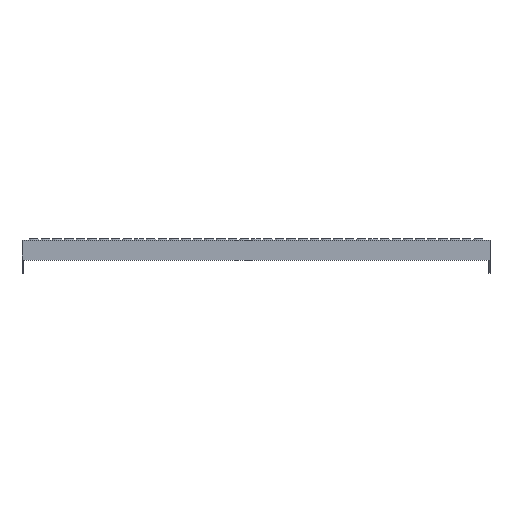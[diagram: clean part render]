
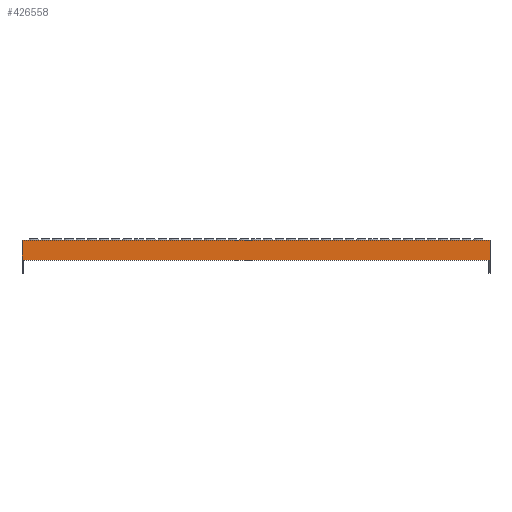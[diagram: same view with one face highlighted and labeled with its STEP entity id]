
A CAD part, front view. The second image highlights one B-rep face of the part: STEP entity #426558.
In plain terms, the highlighted planar face has unit normal (0, -1, 0).
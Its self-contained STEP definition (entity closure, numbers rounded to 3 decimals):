
#426558 = ADVANCED_FACE('',(#426559),#426573,.T.);
#426559 = FACE_BOUND('',#426560,.T.);
#426560 = EDGE_LOOP('',(#426561,#426584,#426600,#426616));
#426561 = ORIENTED_EDGE('',*,*,#426562,.T.);
#426562 = EDGE_CURVE('',#426563,#426565,#426567,.T.);
#426563 = VERTEX_POINT('',#426564);
#426564 = CARTESIAN_POINT('',(7000.,8745.,
    0.));
#426565 = VERTEX_POINT('',#426566);
#426566 = CARTESIAN_POINT('',(6000.,8745.,
    0.));
#426567 = SURFACE_CURVE('',#426568,(#426572),.PCURVE_S1.);
#426568 = LINE('',#426569,#426570);
#426569 = CARTESIAN_POINT('',(7000.,8745.,
    0.));
#426570 = VECTOR('',#426571,1.);
#426571 = DIRECTION('',(-1.,0.,0.));
#426572 = PCURVE('',#426573,#426578);
#426573 = PLANE('',#426574);
#426574 = AXIS2_PLACEMENT_3D('',#426575,#426576,#426577);
#426575 = CARTESIAN_POINT('',(6500.,8745.,-21.25
    ));
#426576 = DIRECTION('',(-0.,-1.,-0.));
#426577 = DIRECTION('',(0.,0.,-1.));
#426578 = DEFINITIONAL_REPRESENTATION('',(#426579),#426583);
#426579 = LINE('',#426580,#426581);
#426580 = CARTESIAN_POINT('',(-21.25,500.));
#426581 = VECTOR('',#426582,1.);
#426582 = DIRECTION('',(0.,-1.));
#426583 = ( GEOMETRIC_REPRESENTATION_CONTEXT(2) 
PARAMETRIC_REPRESENTATION_CONTEXT() REPRESENTATION_CONTEXT('2D SPACE',''
  ) );
#426584 = ORIENTED_EDGE('',*,*,#426585,.T.);
#426585 = EDGE_CURVE('',#426565,#426586,#426588,.T.);
#426586 = VERTEX_POINT('',#426587);
#426587 = CARTESIAN_POINT('',(6000.,8745.,-42.5)
  );
#426588 = SURFACE_CURVE('',#426589,(#426593),.PCURVE_S1.);
#426589 = LINE('',#426590,#426591);
#426590 = CARTESIAN_POINT('',(6000.,8745.,
    0.));
#426591 = VECTOR('',#426592,1.);
#426592 = DIRECTION('',(0.,0.,-1.));
#426593 = PCURVE('',#426573,#426594);
#426594 = DEFINITIONAL_REPRESENTATION('',(#426595),#426599);
#426595 = LINE('',#426596,#426597);
#426596 = CARTESIAN_POINT('',(-21.25,-500.));
#426597 = VECTOR('',#426598,1.);
#426598 = DIRECTION('',(1.,0.));
#426599 = ( GEOMETRIC_REPRESENTATION_CONTEXT(2) 
PARAMETRIC_REPRESENTATION_CONTEXT() REPRESENTATION_CONTEXT('2D SPACE',''
  ) );
#426600 = ORIENTED_EDGE('',*,*,#426601,.T.);
#426601 = EDGE_CURVE('',#426586,#426602,#426604,.T.);
#426602 = VERTEX_POINT('',#426603);
#426603 = CARTESIAN_POINT('',(7000.,8745.,-42.5)
  );
#426604 = SURFACE_CURVE('',#426605,(#426609),.PCURVE_S1.);
#426605 = LINE('',#426606,#426607);
#426606 = CARTESIAN_POINT('',(6000.,8745.,-42.5)
  );
#426607 = VECTOR('',#426608,1.);
#426608 = DIRECTION('',(1.,0.,0.));
#426609 = PCURVE('',#426573,#426610);
#426610 = DEFINITIONAL_REPRESENTATION('',(#426611),#426615);
#426611 = LINE('',#426612,#426613);
#426612 = CARTESIAN_POINT('',(21.25,-500.));
#426613 = VECTOR('',#426614,1.);
#426614 = DIRECTION('',(0.,1.));
#426615 = ( GEOMETRIC_REPRESENTATION_CONTEXT(2) 
PARAMETRIC_REPRESENTATION_CONTEXT() REPRESENTATION_CONTEXT('2D SPACE',''
  ) );
#426616 = ORIENTED_EDGE('',*,*,#426617,.T.);
#426617 = EDGE_CURVE('',#426602,#426563,#426618,.T.);
#426618 = SURFACE_CURVE('',#426619,(#426623),.PCURVE_S1.);
#426619 = LINE('',#426620,#426621);
#426620 = CARTESIAN_POINT('',(7000.,8745.,-42.5)
  );
#426621 = VECTOR('',#426622,1.);
#426622 = DIRECTION('',(0.,0.,1.));
#426623 = PCURVE('',#426573,#426624);
#426624 = DEFINITIONAL_REPRESENTATION('',(#426625),#426629);
#426625 = LINE('',#426626,#426627);
#426626 = CARTESIAN_POINT('',(21.25,500.));
#426627 = VECTOR('',#426628,1.);
#426628 = DIRECTION('',(-1.,0.));
#426629 = ( GEOMETRIC_REPRESENTATION_CONTEXT(2) 
PARAMETRIC_REPRESENTATION_CONTEXT() REPRESENTATION_CONTEXT('2D SPACE',''
  ) );
